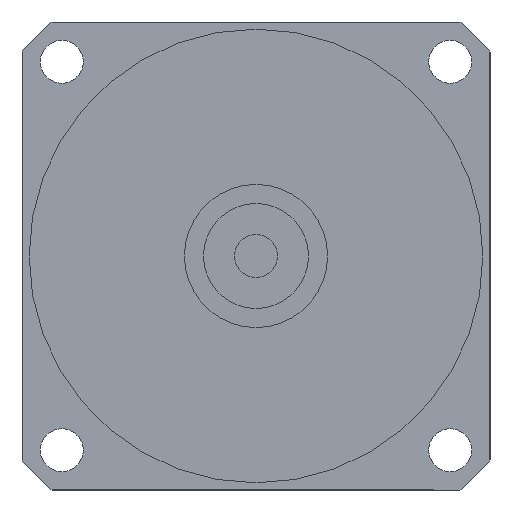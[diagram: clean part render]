
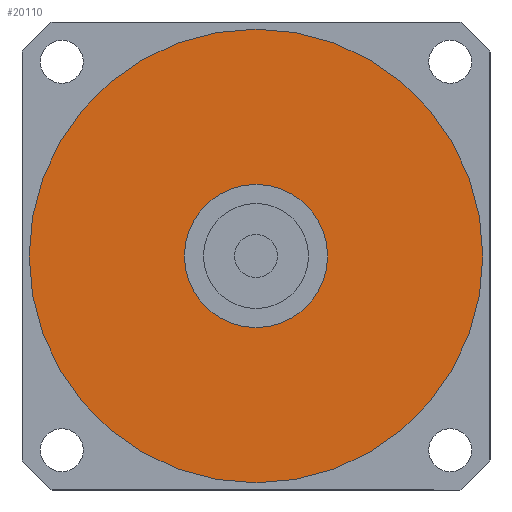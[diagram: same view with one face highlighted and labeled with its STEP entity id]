
A CAD part, left-side view. The second image highlights one B-rep face of the part: STEP entity #20110.
In plain terms, the highlighted planar face has unit normal (-1, 0, 0) as drawn and (0, 0, -1) by its records, which use the part's own axes.
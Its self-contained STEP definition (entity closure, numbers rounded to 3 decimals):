
#19630=CARTESIAN_POINT('',(0.,47.5,-55.5));
#19640=VERTEX_POINT('',#19630);
#19670=CARTESIAN_POINT('',(0.,0.,
-55.5));
#19680=DIRECTION('',(0.,0.,-1.));
#19690=DIRECTION('',(0.,-1.,0.));
#19700=AXIS2_PLACEMENT_3D('',#19670,#19680,#19690);
#19710=CIRCLE('',#19700,47.5);
#19720=CARTESIAN_POINT('',(0.,-47.5,-55.5));
#19730=VERTEX_POINT('',#19720);
#19740=EDGE_CURVE('',#19640,#19730,#19710,.T.);
#19860=CARTESIAN_POINT('',(18.513,-16.263,-55.5));
#19870=DIRECTION('',(0.,0.,-1.));
#19880=DIRECTION('',(0.,-1.,0.));
#19890=AXIS2_PLACEMENT_3D('',#19860,#19870,#19880);
#19900=PLANE('',#19890);
#19910=CARTESIAN_POINT('',(0.,0.,
-55.5));
#19920=DIRECTION('',(0.,0.,1.));
#19930=DIRECTION('',(1.,0.,0.));
#19940=AXIS2_PLACEMENT_3D('',#19910,#19920,#19930);
#19950=CIRCLE('',#19940,15.);
#19960=CARTESIAN_POINT('',(15.,0.,-55.5));
#19970=VERTEX_POINT('',#19960);
#19980=CARTESIAN_POINT('',(-15.,0.,-55.5));
#19990=VERTEX_POINT('',#19980);
#20000=EDGE_CURVE('',#19970,#19990,#19950,.T.);
#20010=ORIENTED_EDGE('',*,*,#20000,.T.);
#20020=EDGE_CURVE('',#19990,#19970,#19950,.T.);
#20030=ORIENTED_EDGE('',*,*,#20020,.T.);
#20040=EDGE_LOOP('',(#20030,#20010));
#20050=FACE_BOUND('',#20040,.T.);
#20060=EDGE_CURVE('',#19730,#19640,#19710,.T.);
#20070=ORIENTED_EDGE('',*,*,#20060,.T.);
#20080=ORIENTED_EDGE('',*,*,#19740,.T.);
#20090=EDGE_LOOP('',(#20080,#20070));
#20100=FACE_OUTER_BOUND('',#20090,.T.);
#20110=ADVANCED_FACE('',(#20050,#20100),#19900,.T.);
